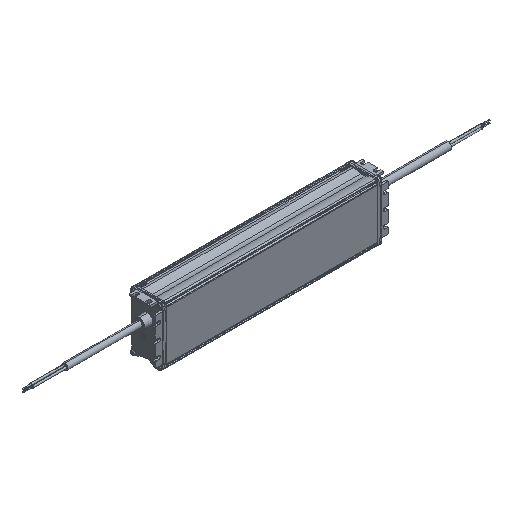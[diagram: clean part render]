
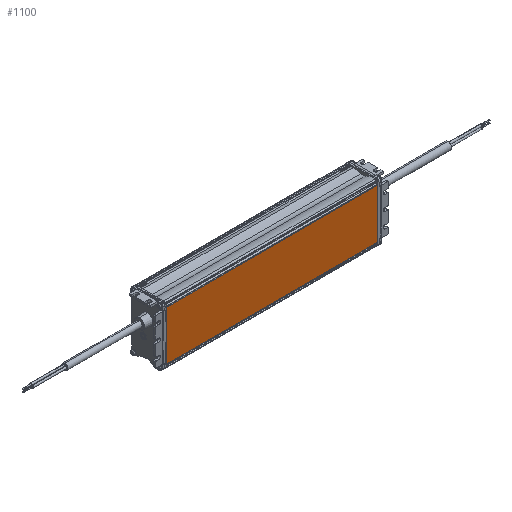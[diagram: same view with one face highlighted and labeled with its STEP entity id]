
A CAD part, isometric view. The second image highlights one B-rep face of the part: STEP entity #1100.
In plain terms, the highlighted planar face has unit normal (0, -1, 0).
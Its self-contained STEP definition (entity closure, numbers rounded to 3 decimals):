
#1=DIRECTION('',(0.,0.,1.));
#2=VECTOR('',#1,59.366);
#3=CARTESIAN_POINT('',(-127.5,-18.75,-29.683));
#4=LINE('',#3,#2);
#9=DIRECTION('',(-1.,0.,0.));
#10=VECTOR('',#9,255.);
#11=CARTESIAN_POINT('',(127.5,-18.75,29.683));
#12=LINE('',#11,#10);
#404=DIRECTION('',(0.,0.,1.));
#405=VECTOR('',#404,59.366);
#406=CARTESIAN_POINT('',(127.5,-18.75,-29.683));
#407=LINE('',#406,#405);
#665=DIRECTION('',(1.,0.,0.));
#666=VECTOR('',#665,255.);
#667=CARTESIAN_POINT('',(-127.5,-18.75,-29.683));
#668=LINE('',#667,#666);
#821=CARTESIAN_POINT('',(127.5,-18.75,29.683));
#822=CARTESIAN_POINT('',(-127.5,-18.75,29.683));
#823=VERTEX_POINT('',#821);
#824=VERTEX_POINT('',#822);
#825=CARTESIAN_POINT('',(127.5,-18.75,-29.683));
#826=VERTEX_POINT('',#825);
#827=CARTESIAN_POINT('',(-127.5,-18.75,-29.683));
#828=VERTEX_POINT('',#827);
#1085=CARTESIAN_POINT('',(-127.5,-18.75,35.));
#1086=DIRECTION('',(0.,-1.,0.));
#1087=DIRECTION('',(0.,0.,-1.));
#1088=AXIS2_PLACEMENT_3D('',#1085,#1086,#1087);
#1089=PLANE('',#1088);
#1091=ORIENTED_EDGE('',*,*,#1090,.F.);
#1093=ORIENTED_EDGE('',*,*,#1092,.F.);
#1095=ORIENTED_EDGE('',*,*,#1094,.F.);
#1097=ORIENTED_EDGE('',*,*,#1096,.T.);
#1098=EDGE_LOOP('',(#1091,#1093,#1095,#1097));
#1099=FACE_OUTER_BOUND('',#1098,.F.);
#1100=ADVANCED_FACE('',(#1099),#1089,.T.);
#1090=EDGE_CURVE('',#823,#824,#12,.T.);
#1092=EDGE_CURVE('',#826,#823,#407,.T.);
#1094=EDGE_CURVE('',#828,#826,#668,.T.);
#1096=EDGE_CURVE('',#828,#824,#4,.T.);
